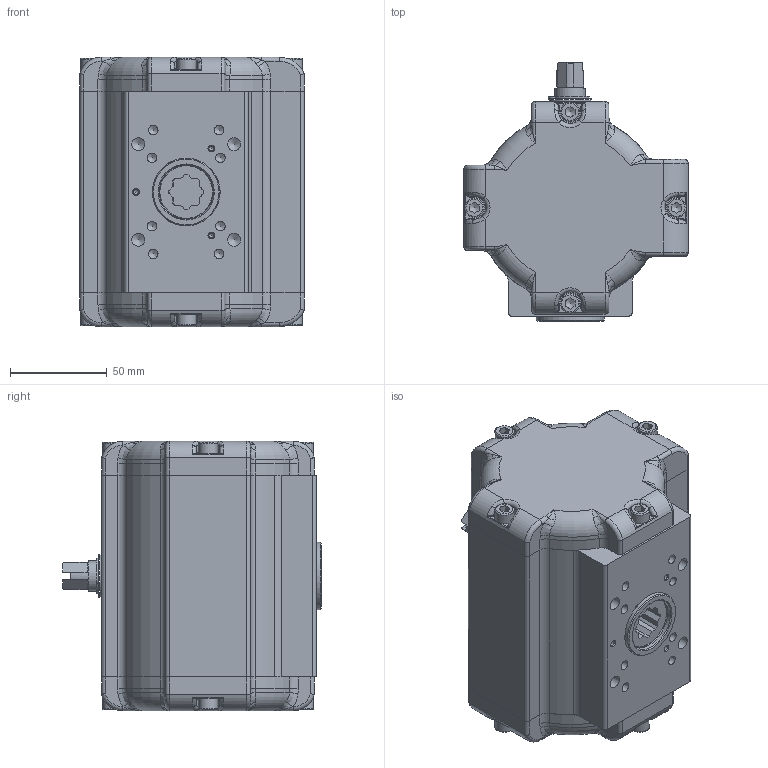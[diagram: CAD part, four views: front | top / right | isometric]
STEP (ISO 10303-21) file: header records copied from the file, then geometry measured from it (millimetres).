
FILE_DESCRIPTION((''),'2;1');
FILE_NAME('Z:\DOKUMENTATION ANTRIEBSPROGRAMM\Antriebe (neu)\BR16_SAD_SAF_90°\STEP-Dateien\15\SAD_15_BR16.stp','2017-06-27T08:06:08',('vmi'),(''),'Autodesk Inventor 2013','Autodesk Inventor 2013','');
FILE_SCHEMA(('AUTOMOTIVE_DESIGN { 1 0 10303 214 1 1 1 1 }'));
Length unit declared in the file: millimetre
Products named in the file (1): ENG-084095_Shrinkwrap_1
Bounding box: 116 x 133.5 x 139.3 mm (x, y, z)
Surface area: 92942.9 mm2 (no closed solid volume)
Topology: 0 solids, 22 shells, 532 faces, 1573 edges, 1010 vertices
Faces by surface type: plane 162, cylinder 156, bspline 102, torus 57, cone 55
Full cylindrical faces by diameter (mm): 1.7 x2, 2.5 x3, 4.134 x8, 4.917 x9, 5 x2, 6.647 x4, 10 x8, 11.445 x2, 14 x1, 14.9 x1, 15.8 x1, 22 x1, 28 x2, 35 x1
Entity records: 20347 total; most frequent: CARTESIAN_POINT 7074, ORIENTED_EDGE 2499, DIRECTION 2420, EDGE_CURVE 1425, VERTEX_POINT 969, AXIS2_PLACEMENT_3D 936, EDGE_LOOP 659, VECTOR 548
